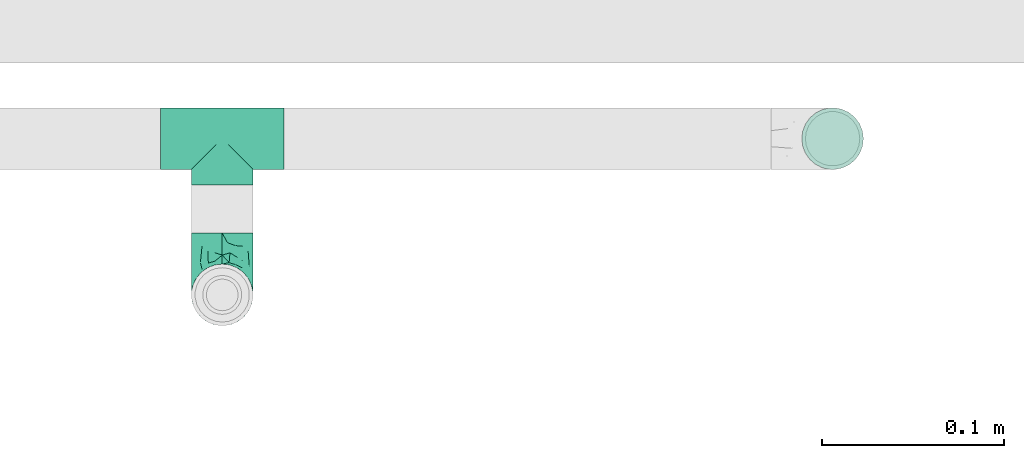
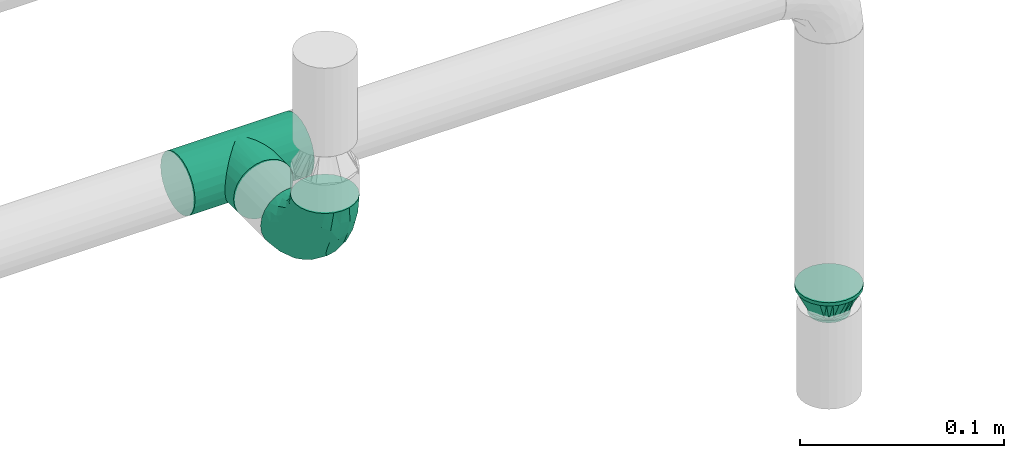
# One storey, part 61 of 95: 3 flow fittings.
"""IFC2X3 building model written with IfcOpenShell, lengths in millimetres."""

import ifcopenshell
import ifcopenshell.guid

model = None  # the IFC model being written
_history = None  # IfcOwnerHistory: only IFC2X3 demands one
_inside = {}  # id of a spatial element -> (the spatial element, [elements in it])
_under = {}  # id of a project, library or spatial element -> (it, [spatial elements below it])
_declared = {}  # id of a project -> (the project, [libraries it declares])
_typed = {}  # id of a type object -> (the type object, [elements of that type])
_made_of = {}  # id of a material, layer set ... -> (it, [elements and type objects made of it])


def new_model(schema):
    """Start an empty IFC model of exactly this schema.

    Asked for "IFC4X3", IfcOpenShell would pick the latest addendum, in which some entities
    have other attributes; the version numbers below select the first issue.
    IFC2X3 requires an IfcOwnerHistory on every rooted entity: one is made here for all.
    """
    global model, _history
    if schema == "IFC4X3":
        model = ifcopenshell.file(schema_version=(4, 3, 0, 0))
    else:
        model = ifcopenshell.file(schema=schema)
    _inside.clear()
    _under.clear()
    _declared.clear()
    _typed.clear()
    _made_of.clear()
    _history = None
    if model.schema == "IFC2X3":
        org = make("IfcOrganization", Name="unknown")
        user = make(
            "IfcPersonAndOrganization",
            ThePerson=make("IfcPerson", FamilyName="unknown"),
            TheOrganization=org,
        )
        app = make(
            "IfcApplication",
            ApplicationDeveloper=org,
            Version="unknown",
            ApplicationFullName="unknown",
            ApplicationIdentifier="unknown",
        )
        _history = make(
            "IfcOwnerHistory",
            OwningUser=user,
            OwningApplication=app,
            ChangeAction="ADDED",
            CreationDate=0,
        )
    return model


def make(cls, **values):
    """One entity of the class cls with the attributes given. An attribute that is None is left unset."""
    return model.create_entity(
        cls, **{name: value for name, value in values.items() if value is not None}
    )


def entity(cls, *values):
    """Any entity or typed value of the class cls, its attributes in the order of the schema. None: left unset."""
    e = model.create_entity(cls)
    for i, value in enumerate(values):
        if value is not None:
            e[i] = value
    return e


def rooted(cls, **values):
    """An entity with a GlobalId (a new one), such as an element, a storey or a relation."""
    return make(cls, GlobalId=ifcopenshell.guid.new(), OwnerHistory=_history, **values)


def si_unit(unit_type, name, prefix=None):
    """IfcSIUnit, for example si_unit("LENGTHUNIT", "METRE", prefix="MILLI")."""
    return make("IfcSIUnit", UnitType=unit_type, Prefix=prefix, Name=name)


def converted_unit(unit_type, name, factor, base, dimensions=None, offset=None):
    """IfcConversionBasedUnit, such as the inch: factor (a typed value) times the base unit."""
    return make(
        "IfcConversionBasedUnit"
        if offset is None
        else "IfcConversionBasedUnitWithOffset",
        ConversionOffset=offset,
        Dimensions=None
        if dimensions is None
        else entity("IfcDimensionalExponents", *dimensions),
        UnitType=unit_type,
        Name=name,
        ConversionFactor=make(
            "IfcMeasureWithUnit", ValueComponent=factor, UnitComponent=base
        ),
    )


def derived_unit(unit_type, elements):
    """IfcDerivedUnit: a product of units, each with its exponent."""
    return make(
        "IfcDerivedUnit",
        Elements=[
            make("IfcDerivedUnitElement", Unit=unit, Exponent=power)
            for unit, power in elements
        ],
        UnitType=unit_type,
    )


def assignment(units):
    """IfcUnitAssignment: the units of a project."""
    return None if units is None else make("IfcUnitAssignment", Units=units)


def point(xyz):
    """IfcCartesianPoint."""
    return None if xyz is None else make("IfcCartesianPoint", Coordinates=xyz)


def direction(xyz):
    """IfcDirection."""
    return None if xyz is None else make("IfcDirection", DirectionRatios=xyz)


def frame(location, z_axis=None, x_axis=None):
    """IfcAxis2Placement3D, a coordinate frame: its origin and axes. An axis left out is left unset."""
    return make(
        "IfcAxis2Placement3D",
        Location=point(location),
        Axis=direction(z_axis),
        RefDirection=direction(x_axis),
    )


def origin_with_axes():
    """The frame at (0, 0, 0) with the z axis (0, 0, 1) and the x axis (1, 0, 0) written out."""
    return frame((0.0, 0.0, 0.0), z_axis=(0.0, 0.0, 1.0), x_axis=(1.0, 0.0, 0.0))


def place(relative_to, where):
    """IfcLocalPlacement: puts the frame where relative to a parent placement (None: the world)."""
    return make(
        "IfcLocalPlacement", PlacementRelTo=relative_to, RelativePlacement=where
    )


def context(
    kind, dimensions, precision=None, world=None, true_north=None, identifier=None
):
    """IfcGeometricRepresentationContext, for example the 3D "Model" context."""
    return make(
        "IfcGeometricRepresentationContext",
        ContextIdentifier=identifier,
        ContextType=kind,
        CoordinateSpaceDimension=dimensions,
        Precision=precision,
        WorldCoordinateSystem=world,
        TrueNorth=true_north,
    )


def subcontext(parent, identifier, kind, view, scale=None):
    """IfcGeometricRepresentationSubContext, for example "Body" below "Model"."""
    return make(
        "IfcGeometricRepresentationSubContext",
        ContextIdentifier=identifier,
        ContextType=kind,
        ParentContext=parent,
        TargetScale=scale,
        TargetView=view,
    )


def project(units=None, contexts=None):
    """IfcProject with its units and contexts."""
    return rooted(
        "IfcProject",
        Name="project",
        RepresentationContexts=contexts,
        UnitsInContext=assignment(units),
    )


def spatial(cls, under=None, at=None, **own):
    """A site, building, storey or space (cls), placed at a placement, below another one or the project."""
    s = rooted(cls, ObjectPlacement=at, **own)
    if under is not None:
        _under.setdefault(under.id(), (under, []))[1].append(s)
    return s


def faces_of(points, faces, orient=None, outer=None):
    """IfcFace entities. A face is a list of loops; a loop is a list of indices into points, from 0.

    orient and outer hold one flag for each loop. By default every Orientation is true, the
    first loop of a face is its IfcFaceOuterBound and the others are IfcFaceBound.
    """
    made = []
    for i, loops in enumerate(faces):
        bounds = []
        for j, loop in enumerate(loops):
            is_outer = j == 0 if outer is None else outer[i][j]
            bounds.append(
                make(
                    "IfcFaceOuterBound" if is_outer else "IfcFaceBound",
                    Bound=make("IfcPolyLoop", Polygon=[points[k] for k in loop]),
                    Orientation=True if orient is None else orient[i][j],
                )
            )
        made.append(make("IfcFace", Bounds=bounds))
    return made


def open_shell(faces, orient=None, outer=None):
    """The faces of one IfcOpenShell. surface_model builds it on its shared points."""
    return ("IfcOpenShell", faces, orient, outer)


def surface_model(cls, points, shells):
    """IfcFaceBasedSurfaceModel or IfcShellBasedSurfaceModel (cls): surfaces that need not close."""
    shared = [point(p) for p in points]
    made = [make(c, CfsFaces=faces_of(shared, fs, o, b)) for c, fs, o, b in shells]
    if cls == "IfcFaceBasedSurfaceModel":
        return make(cls, FbsmFaces=made)
    return make(cls, SbsmBoundary=made)


def shape(context_of_items, identifier, shape_type, items):
    """IfcShapeRepresentation: the items that make up one representation, for example the "Body"."""
    return make(
        "IfcShapeRepresentation",
        ContextOfItems=context_of_items,
        RepresentationIdentifier=identifier,
        RepresentationType=shape_type,
        Items=items,
    )


def source(mapping_origin, context_of_items, identifier, shape_type, items):
    """IfcRepresentationMap: a shape defined once, which mapped items show again and again."""
    return make(
        "IfcRepresentationMap",
        MappingOrigin=mapping_origin,
        MappedRepresentation=shape(context_of_items, identifier, shape_type, items),
    )


def transform(
    local_origin,
    x_axis=None,
    y_axis=None,
    z_axis=None,
    scale=None,
    scale2=None,
    scale3=None,
    uniform=True,
):
    """IfcCartesianTransformationOperator3D, or its non-uniform kind. x_axis, y_axis, z_axis: its Axis1, 2, 3."""
    if uniform:
        return make(
            "IfcCartesianTransformationOperator3D",
            Axis1=direction(x_axis),
            Axis2=direction(y_axis),
            LocalOrigin=point(local_origin),
            Scale=scale,
            Axis3=direction(z_axis),
        )
    return make(
        "IfcCartesianTransformationOperator3DnonUniform",
        Axis1=direction(x_axis),
        Axis2=direction(y_axis),
        LocalOrigin=point(local_origin),
        Scale=scale,
        Axis3=direction(z_axis),
        Scale2=scale2,
        Scale3=scale3,
    )


def mapped(mapping_source, mapping_target):
    """IfcMappedItem: shows the shape of a source again, moved by a transform."""
    return make(
        "IfcMappedItem", MappingSource=mapping_source, MappingTarget=mapping_target
    )


def made_of(thing, what):
    """Note that an element or type object is made of a material, layer set ...; save() writes the relation."""
    if what is not None:
        _made_of.setdefault(what.id(), (what, []))[1].append(thing)
    return thing


def type_object(cls, material=None, **own):
    """A type object (cls), such as IfcWallType, which elements share."""
    return made_of(rooted(cls, **own), material)


def element(
    cls,
    number,
    at=None,
    inside=None,
    cuts=None,
    type_object=None,
    material=None,
    context=None,
    identifier="Body",
    shape_type=None,
    held_by="IfcProductDefinitionShape",
    body=None,
    shapes=None,
    **own,
):
    """One element of the class cls, such as IfcWall. Its Tag is "e" and its number.

    at: its placement. inside: the storey or other place that contains it. cuts: it is an
    opening in that element (IfcRelVoidsElement). A single representation is given by context,
    identifier, shape_type and body (its items); several are given by shapes. held_by: the class
    of the entity that holds the representations. save() writes the other relations.
    """
    e = rooted(cls, Tag="e%d" % number, ObjectPlacement=at, **own)
    if body is not None:
        shapes = [shape(context, identifier, shape_type, body)]
    if shapes is not None:
        e.Representation = make(held_by, Representations=shapes)
    if inside is not None:
        _inside.setdefault(inside.id(), (inside, []))[1].append(e)
    if cuts is not None:
        rooted(
            "IfcRelVoidsElement", RelatingBuildingElement=cuts, RelatedOpeningElement=e
        )
    if type_object is not None:
        _typed.setdefault(type_object.id(), (type_object, []))[1].append(e)
    return made_of(e, material)


def aggregate(whole, parts):
    """IfcRelAggregates: a whole, such as a stair, and the parts it consists of."""
    return rooted("IfcRelAggregates", RelatingObject=whole, RelatedObjects=parts)


def save(model, path):
    """Write the relations noted so far, then the file.

    IfcRelAggregates (storeys below a building ...), IfcRelContainedInSpatialStructure (elements
    in a storey), IfcRelDefinesByType, IfcRelAssociatesMaterial and IfcRelDeclares: one each for
    every whole, place, type object, material and project.
    """
    for whole, parts in _under.values():
        aggregate(whole, parts)
    for where, things in _inside.values():
        rooted(
            "IfcRelContainedInSpatialStructure",
            RelatedElements=things,
            RelatingStructure=where,
        )
    for kind, things in _typed.values():
        rooted("IfcRelDefinesByType", RelatedObjects=things, RelatingType=kind)
    for what, things in _made_of.values():
        rooted("IfcRelAssociatesMaterial", RelatedObjects=things, RelatingMaterial=what)
    for by, libraries in _declared.values():
        rooted("IfcRelDeclares", RelatingContext=by, RelatedDefinitions=libraries)
    model.write(path)


model = new_model("IFC2X3")

# Units and contexts
model_context = context("Model", 3, precision=0.01, world=frame((0.0, 4.29681676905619e-09, 0.0)), true_north=direction((4.01073788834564e-13, 1.0)))
plan_context = context("Plan", 3, precision=0.01, world=frame((0.0, 4.29681676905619e-09, 0.0)), true_north=direction((4.01073788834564e-13, 1.0)))
body_context = subcontext(model_context, "Body", "Model", "MODEL_VIEW")
ifc_project = project(units=[converted_unit("PLANEANGLEUNIT", "DEGREE", entity("IfcPositiveLengthMeasure", 0.0174532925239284), si_unit("PLANEANGLEUNIT", "RADIAN"), dimensions=[0, 0, 0, 0, 0, 0, 0]), si_unit("AREAUNIT", "SQUARE_METRE"), si_unit("LENGTHUNIT", "METRE", prefix="MILLI"), si_unit("MASSUNIT", "GRAM", prefix="KILO"), si_unit("POWERUNIT", "WATT"), si_unit("PRESSUREUNIT", "PASCAL"), si_unit("FORCEUNIT", "NEWTON", prefix="KILO"), si_unit("ELECTRICVOLTAGEUNIT", "VOLT"), si_unit("ELECTRICCURRENTUNIT", "AMPERE"), si_unit("THERMODYNAMICTEMPERATUREUNIT", "DEGREE_CELSIUS"), si_unit("TIMEUNIT", "SECOND"), si_unit("VOLUMEUNIT", "CUBIC_METRE"), derived_unit("LINEARVELOCITYUNIT", [(si_unit("LENGTHUNIT", "METRE"), 1), (si_unit("TIMEUNIT", "SECOND"), -1)]), derived_unit("VOLUMETRICFLOWRATEUNIT", [(si_unit("VOLUMEUNIT", "CUBIC_METRE"), 1), (si_unit("TIMEUNIT", "SECOND"), -1)]), derived_unit("THERMALTRANSMITTANCEUNIT", [(si_unit("POWERUNIT", "WATT"), 1), (si_unit("THERMODYNAMICTEMPERATUREUNIT", "KELVIN"), -1), (si_unit("AREAUNIT", "SQUARE_METRE"), -1)]), derived_unit("SOUNDPRESSUREUNIT", [(si_unit("PRESSUREUNIT", "PASCAL"), 1)])], contexts=[model_context, plan_context])

# Site, building, storey
site_placement = place(None, frame((0.0, -4.29681676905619e-09, 0.0), z_axis=(0.0, 0.0, 1.0), x_axis=(1.0, 0.0, 0.0)))
site = spatial("IfcSite", under=ifc_project, at=site_placement, CompositionType="ELEMENT")
building_placement = place(site_placement, frame((0.0, 4.29681676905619e-09, 0.0), z_axis=(0.0, 0.0, 1.0), x_axis=(1.0, 0.0, 0.0)))
building = spatial("IfcBuilding", under=site, at=building_placement, Name="mc-building", CompositionType="ELEMENT")
storey_placement = place(building_placement, frame((0.0, 0.0, 210900.0), z_axis=(0.0, 0.0, 1.0), x_axis=(1.0, 0.0, 0.0)))
storey = spatial("IfcBuildingStorey", under=building, at=storey_placement, Name="Nivå F", CompositionType="ELEMENT", Elevation=210900.0)

# Flow fittings
pipe_fitting_type_1 = type_object("IfcPipeFittingType", Name="magi_pipe_fe_reducer_centric_short_NOR", PredefinedType="TRANSITION")
shared_shape_1 = source(origin_with_axes(), body_context, "Body", "SurfaceModel", [
    surface_model("IfcShellBasedSurfaceModel", [(-2.0, -7.56604, -7.56604), (-2.0, -10.33541, -2.76936), (-2.0, -5.35, -9.26647), (-2.0, 5.35, -9.26647), (-2.0, 10.33541, -2.76936), (-2.0, 7.56604, -7.56604), (12.4, 11.9501, 11.9501), (12.4, 0.0, 16.9), (12.4, 11.9501, -11.9501), (12.4, 16.9, 0.0), (0.0, -10.7, 0.0), (0.0, -5.35, 9.26647), (0.0, -5.35, -9.26647), (0.0, 10.7, 0.0), (12.4, 15.66253, -2.98753), (12.4, 8.96258, -13.18758), (0.0, 6.6875, -6.94985), (12.4, -15.66253, -2.98753), (12.4, -16.9, 0.0), (12.4, 5.97505, -14.42505), (0.0, 5.35, -9.26647), (12.4, 14.42505, -5.97505), (0.0, 8.025, -4.63324), (0.0, 9.3625, -2.31662), (0.0, -9.3625, -2.31662), (0.0, -8.025, -4.63324), (12.4, -14.42505, -5.97505), (12.4, 13.18758, -8.96258), (12.4, -13.18758, -8.96258), (12.4, -11.9501, -11.9501), (0.0, -6.6875, -6.94985), (12.4, -8.96258, -13.18758), (12.4, -5.97505, -14.42505), (12.4, -15.66253, 2.98753), (12.4, -8.96258, 13.18758), (0.0, -6.6875, 6.94985), (12.4, -11.9501, 11.9501), (12.4, 15.66253, 2.98753), (12.4, -5.97505, 14.42505), (12.4, -14.42505, 5.97505), (0.0, -8.025, 4.63324), (0.0, -9.3625, 2.31662), (0.0, 9.3625, 2.31662), (0.0, 8.025, 4.63324), (12.4, 14.42505, 5.97505), (12.4, -13.18758, 8.96258), (12.4, 13.18758, 8.96258), (0.0, 6.6875, 6.94985), (12.4, 8.96258, 13.18758), (0.0, 5.35, 9.26647), (12.4, 5.97505, 14.42505), (14.4, 4.37404, -16.32415), (14.4, 8.45, -14.63583), (14.4, 11.9501, -11.9501), (14.4, -8.45, -14.63583), (14.4, 16.32415, -4.37404), (14.4, 16.32415, 4.37404), (14.4, 14.63583, -8.45), (14.4, 0.0, -16.9), (14.4, -4.37404, -16.32415), (14.4, -11.9501, -11.9501), (14.4, -16.32415, -4.37404), (14.4, -14.63583, -8.45), (14.4, -16.32415, 4.37404), (14.4, 16.9, 0.0), (14.4, 14.63583, 8.45), (14.4, 11.9501, 11.9501), (14.4, 4.37404, 16.32415), (14.4, 8.45, 14.63583), (14.4, 0.0, 16.9), (14.4, -14.63583, 8.45), (14.4, -16.9, 0.0), (14.4, -8.45, 14.63583), (14.4, -11.9501, 11.9501), (14.4, -4.37404, 16.32415), (12.4, 4.37404, 16.32415), (12.4, -14.63583, 8.45), (12.4, 16.32415, 4.37404), (12.4, 8.45, 14.63583), (12.4, 14.63583, 8.45), (12.4, -8.45, 14.63583), (12.4, -4.37404, 16.32415), (12.4, -16.32415, 4.37404), (12.4, -16.32415, -4.37404), (12.4, -8.45, -14.63583), (12.4, 16.32415, -4.37404), (12.4, 14.63583, -8.45), (12.4, 8.45, -14.63583), (12.4, 4.37404, -16.32415), (12.4, 0.0, -16.9), (12.4, -14.63583, -8.45), (12.4, -4.37404, -16.32415), (-2.0, 2.76936, 10.33541), (-2.0, 0.0, 10.7), (-2.0, 5.35, 9.26647), (-2.0, 7.56604, 7.56604), (-2.0, 9.26647, 5.35), (-2.0, 10.33541, 2.76936), (-2.0, -10.33541, 2.76936), (-2.0, -2.76936, 10.33541), (-2.0, -7.56604, 7.56604), (-2.0, -5.35, 9.26647), (-2.0, -9.26647, 5.35), (-2.0, -10.7, 0.0), (-2.0, 9.26647, -5.35), (-2.0, 2.76936, -10.33541), (-2.0, -9.26647, -5.35), (-2.0, 0.0, -10.7), (-2.0, -2.76936, -10.33541), (-2.0, 10.7, 0.0), (0.0, 0.0, -10.7), (0.0, 2.76936, -10.33541), (0.0, 10.33541, -2.76936), (0.0, 7.56604, -7.56604), (0.0, -10.33541, -2.76936), (0.0, 9.26647, -5.35), (0.0, 0.0, 10.7), (0.0, -2.76936, -10.33541), (0.0, -7.56604, -7.56604), (0.0, -9.26647, -5.35), (0.0, 10.33541, 2.76936), (0.0, 9.26647, 5.35), (0.0, 7.56604, 7.56604), (0.0, 2.76936, 10.33541), (0.0, -7.56604, 7.56604), (0.0, -10.33541, 2.76936), (0.0, -9.26647, 5.35), (0.0, -2.76936, 10.33541), (0.0, 2.675, -9.26647), (0.0, -2.675, -9.26647), (12.4, 2.98753, -15.66253), (0.0, 0.0, -9.26647), (12.4, -2.98753, -15.66253), (0.0, -2.675, 9.26647), (0.0, 2.675, 9.26647), (12.4, -2.98753, 15.66253), (0.0, 0.0, 9.26647), (12.4, 2.98753, 15.66253)], [open_shell([[[0, 1, 2]], [[3, 4, 5]], [[6, 7, 8]], [[8, 9, 6]], [[10, 11, 12]], [[13, 9, 14]], [[15, 16, 8]], [[17, 18, 10]], [[15, 19, 20]], [[21, 22, 23]], [[24, 25, 26]], [[22, 21, 27]], [[28, 26, 25]], [[29, 30, 31]], [[12, 32, 31]], [[10, 18, 33]], [[34, 35, 36]], [[37, 9, 13]], [[34, 38, 11]], [[39, 40, 41]], [[42, 43, 44]], [[40, 39, 45]], [[46, 44, 43]], [[6, 47, 48]], [[49, 50, 48]], [[51, 52, 53]], [[54, 51, 53]], [[53, 55, 56]], [[55, 53, 57]], [[53, 56, 54]], [[58, 54, 59]], [[58, 51, 54]], [[60, 61, 62]], [[61, 60, 54]], [[54, 63, 61]], [[56, 55, 64]], [[56, 65, 66]], [[56, 66, 67]], [[67, 63, 54]], [[67, 66, 68]], [[63, 67, 69]], [[69, 70, 63]], [[71, 61, 63]], [[70, 72, 73]], [[70, 69, 72]], [[72, 69, 74]], [[54, 56, 67]], [[75, 76, 7]], [[77, 75, 78]], [[6, 79, 77]], [[6, 77, 78]], [[76, 75, 77]], [[80, 76, 36]], [[80, 81, 7]], [[7, 76, 80]], [[82, 76, 77]], [[82, 83, 18]], [[82, 77, 84]], [[77, 85, 8]], [[8, 85, 86]], [[8, 87, 88]], [[84, 77, 8]], [[88, 89, 8]], [[83, 29, 90]], [[29, 83, 84]], [[84, 89, 91]], [[83, 82, 84]], [[8, 89, 84]], [[85, 77, 9]], [[83, 61, 18]], [[90, 62, 83]], [[54, 29, 84]], [[90, 29, 60]], [[59, 84, 91]], [[83, 62, 61]], [[61, 71, 18]], [[59, 54, 84]], [[60, 29, 54]], [[60, 62, 90]], [[58, 59, 91]], [[91, 89, 58]], [[88, 51, 89]], [[87, 52, 88]], [[57, 8, 86]], [[87, 8, 53]], [[55, 86, 85]], [[87, 53, 52]], [[52, 51, 88]], [[64, 55, 85]], [[57, 86, 55]], [[57, 53, 8]], [[9, 64, 85]], [[89, 51, 58]], [[77, 56, 9]], [[79, 65, 77]], [[68, 6, 78]], [[79, 6, 66]], [[67, 78, 75]], [[77, 65, 56]], [[56, 64, 9]], [[67, 68, 78]], [[66, 6, 68]], [[66, 65, 79]], [[69, 67, 75]], [[75, 7, 69]], [[81, 74, 7]], [[80, 72, 81]], [[70, 36, 76]], [[80, 36, 73]], [[63, 76, 82]], [[80, 73, 72]], [[72, 74, 81]], [[71, 63, 82]], [[70, 76, 63]], [[70, 73, 36]], [[18, 71, 82]], [[7, 74, 69]], [[92, 1, 93]], [[94, 1, 92]], [[95, 96, 97]], [[95, 97, 94]], [[98, 93, 1]], [[99, 100, 101]], [[99, 93, 100]], [[100, 98, 102]], [[93, 98, 100]], [[98, 1, 103]], [[94, 97, 1]], [[1, 97, 4]], [[5, 4, 104]], [[4, 3, 1]], [[105, 1, 3]], [[1, 0, 106]], [[2, 107, 108]], [[2, 1, 105]], [[105, 107, 2]], [[4, 97, 109]], [[20, 110, 111]], [[112, 20, 113]], [[114, 20, 112]], [[112, 113, 115]], [[116, 114, 112]], [[110, 12, 117]], [[110, 20, 12]], [[118, 114, 119]], [[114, 118, 12]], [[20, 114, 12]], [[112, 13, 120]], [[120, 121, 122]], [[120, 122, 123]], [[116, 112, 123]], [[123, 122, 49]], [[116, 124, 114]], [[125, 124, 126]], [[10, 114, 125]], [[124, 127, 11]], [[125, 114, 124]], [[127, 124, 116]], [[123, 112, 120]], [[1, 114, 103]], [[106, 119, 1]], [[12, 0, 2]], [[106, 0, 118]], [[117, 2, 108]], [[1, 119, 114]], [[114, 10, 103]], [[117, 12, 2]], [[118, 0, 12]], [[118, 119, 106]], [[110, 117, 108]], [[108, 107, 110]], [[105, 111, 107]], [[3, 20, 105]], [[115, 5, 104]], [[3, 5, 113]], [[112, 104, 4]], [[3, 113, 20]], [[20, 111, 105]], [[13, 112, 4]], [[115, 104, 112]], [[115, 113, 5]], [[109, 13, 4]], [[107, 111, 110]], [[97, 120, 109]], [[96, 121, 97]], [[49, 95, 94]], [[96, 95, 122]], [[123, 94, 92]], [[97, 121, 120]], [[120, 13, 109]], [[123, 49, 94]], [[122, 95, 49]], [[122, 121, 96]], [[116, 123, 92]], [[92, 93, 116]], [[99, 127, 93]], [[101, 11, 99]], [[126, 100, 102]], [[101, 100, 124]], [[125, 102, 98]], [[101, 124, 11]], [[11, 127, 99]], [[10, 125, 98]], [[126, 102, 125]], [[126, 124, 100]], [[103, 10, 98]], [[93, 127, 116]], [[18, 7, 36]], [[18, 29, 8]], [[89, 8, 29]], [[18, 8, 7]], [[13, 11, 49]], [[13, 20, 12]], [[13, 12, 11]], [[24, 26, 17]], [[10, 24, 17]], [[16, 15, 20]], [[30, 12, 31]], [[23, 14, 21]], [[19, 128, 20]], [[27, 8, 16]], [[32, 12, 129]], [[30, 28, 25]], [[130, 131, 128]], [[129, 132, 32]], [[16, 22, 27]], [[13, 14, 23]], [[128, 19, 130]], [[130, 89, 131]], [[131, 132, 129]], [[89, 132, 131]], [[28, 30, 29]], [[42, 44, 37]], [[13, 42, 37]], [[35, 34, 11]], [[47, 49, 48]], [[41, 33, 39]], [[38, 133, 11]], [[45, 36, 35]], [[50, 49, 134]], [[47, 46, 43]], [[135, 136, 133]], [[134, 137, 50]], [[35, 40, 45]], [[10, 33, 41]], [[133, 38, 135]], [[135, 7, 136]], [[136, 137, 134]], [[7, 137, 136]], [[46, 47, 6]]])]),
])
flow_fitting_1_placement = place(storey_placement, frame((522200.0, 451420.05824, 2396.95199999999), z_axis=(0.0, 1.0, 0.0), x_axis=(0.0, 0.0, 1.0)))
element("IfcFlowFitting", 1, at=flow_fitting_1_placement, inside=storey, type_object=pipe_fitting_type_1, Name="magi_pipe_fe_reducer_centric_short_NOR", context=body_context, shape_type="MappedRepresentation", body=[
    mapped(shared_shape_1, transform((0.0, 0.0, 0.0), scale=1.0)),
])
pipe_fitting_type_2 = type_object("IfcPipeFittingType", Name="magi_pipe_fe_elbow_short_001", PredefinedType="BEND")
shared_shape_2 = source(origin_with_axes(), body_context, "Body", "SurfaceModel", [
    surface_model("IfcShellBasedSurfaceModel", [(-33.8, 8.45, -14.63583), (-33.8, 4.37404, -16.32415), (-33.8, 11.9501, -11.9501), (-33.8, -11.9501, -11.9501), (-33.8, -14.63583, -8.45), (-33.8, -8.45, -14.63583), (-33.8, 0.0, -16.9), (-33.8, -4.37404, -16.32415), (-33.8, -4.37404, 16.32415), (-33.8, 0.0, 16.9), (-33.8, -8.45, 14.63583), (-33.8, 16.32415, -4.37404), (-33.8, 14.63583, -8.45), (-33.8, -16.32415, -4.37404), (-33.8, -16.9, 0.0), (-33.8, -16.32415, 4.37404), (-33.8, 11.9501, 11.9501), (-33.8, 14.63583, 8.45), (-33.8, 16.32415, 4.37404), (-33.8, 4.37404, 16.32415), (-33.8, 8.45, 14.63583), (-33.8, -14.63583, 8.45), (-33.8, -11.9501, 11.9501), (-33.8, 16.9, 0.0), (-11.9501, 33.8, -11.9501), (0.0, 33.8, -16.9), (-4.37404, 33.8, -16.32415), (-8.45, 33.8, -14.63583), (-14.63583, 33.8, -8.45), (-16.32415, 33.8, -4.37404), (14.63583, 33.8, -8.45), (8.45, 33.8, 14.63583), (16.32415, 33.8, -4.37404), (8.45, 33.8, -14.63583), (11.9501, 33.8, -11.9501), (4.37404, 33.8, -16.32415), (16.32415, 33.8, 4.37404), (16.9, 33.8, 0.0), (-11.9501, 33.8, 11.9501), (-16.32415, 33.8, 4.37404), (-14.63583, 33.8, 8.45), (-8.45, 33.8, 14.63583), (-4.37404, 33.8, 16.32415), (11.9501, 33.8, 11.9501), (14.63583, 33.8, 8.45), (0.0, 33.8, 16.9), (4.37404, 33.8, 16.32415), (-16.9, 33.8, 0.0), (-24.79389, -13.12945, 9.48721), (-22.19287, -9.75018, 12.59315), (-24.09897, -14.97035, 0.0), (-14.93934, -10.76256, 8.5297), (-22.46095, -14.75051, 5.27077), (14.75051, 22.46094, 5.27077), (11.9251, 13.23888, 4.33236), (13.04069, 14.39795, 0.0), (7.71387, 13.68847, 11.55891), (9.75018, 22.19287, 12.59315), (4.10169, 13.0571, 14.04018), (-24.84007, -6.39063, 15.2048), (-25.81779, -2.23879, 16.61097), (-23.66549, 2.59054, 16.87119), (-26.50418, 14.06512, 11.08152), (-24.21253, 17.66365, 7.72657), (-29.58514, 15.86957, 7.00283), (-6.17382, -7.5455, 0.0), (-13.23888, -11.9251, 4.33236), (-14.39795, -13.04069, 0.0), (-17.81434, 18.87373, 11.97104), (-6.30846, 29.15138, 15.82987), (-2.31622, 25.28002, 16.85849), (-29.23923, 10.23435, 13.77053), (-1.45439, -2.85688, 7.61475), (-0.28326, 0.34872, 10.09509), (-5.74484, -4.04709, 10.4122), (-4.41137, 11.31918, 16.59407), (-8.39727, 3.10034, 15.7812), (-1.72649, 9.1306, 15.53089), (-17.39909, 24.75344, 7.64977), (-26.19233, 20.0512, 0.0), (-28.14518, 17.29657, 4.25857), (-26.05147, 6.6281, 15.96447), (-5.87354, 16.61944, 16.86968), (-12.51807, 12.51807, 16.48937), (-10.06312, 7.38516, 16.81295), (-3.01882, 3.01882, 13.81718), (-13.0571, -4.10169, 14.04018), (-16.82553, -0.15166, 16.38038), (10.76256, 14.93934, 8.5297), (13.12945, 24.79389, 9.48721), (6.39063, 24.84007, 15.2048), (2.23879, 25.81779, 16.61097), (-13.68847, -7.71387, 11.55891), (14.97035, 24.09897, 0.0), (-7.30894, 22.89991, 16.09489), (-10.67958, 26.17414, 14.008), (-12.78295, 18.26924, 15.06066), (-13.88562, 22.45231, 12.93244), (-18.04944, 15.16501, 14.04434), (-23.11658, 20.08178, 4.02986), (-21.84989, 21.84989, 0.0), (-18.55817, 25.48277, 3.93065), (-13.95142, 26.94732, 11.03289), (-18.57098, 7.23906, 16.59756), (-16.58335, 4.14122, 16.89279), (-17.96666, 11.46709, 15.63151), (-9.84453, 17.54304, 16.18938), (0.15166, 16.82553, 16.38038), (-23.27207, 11.47201, 14.23154), (3.84842, 5.86994, 10.70473), (-8.0212, -7.54413, 7.93275), (1.00345, -2.19508, 4.57414), (5.13203, 3.01004, 5.90201), (5.24161, 1.7543, 2.53265), (8.70457, 7.04947, 3.99182), (-20.0512, 26.19233, 0.0), (8.4852, 8.76699, 7.09296), (-4.55488, -6.72064, 4.90681), (2.05031, -2.05031, 0.0), (7.5455, 6.17382, 0.0), (-26.75399, 2.1369, -16.845), (-14.61995, 24.73803, -11.27736), (-28.45274, -13.45335, -9.81895), (-26.00469, 6.63555, -15.96645), (-23.06726, 20.04573, -4.26202), (-13.80647, -4.26506, -14.17873), (-14.67501, -0.21081, -16.07388), (-6.7902, -0.2828, -13.8478), (-24.53586, 11.08096, -14.13417), (-26.72048, 14.00837, -11.05776), (10.0967, 24.44989, -12.75976), (5.83237, 21.40218, -15.03047), (6.66249, 28.54238, -15.38093), (-20.38182, 15.48705, -12.74596), (12.53268, 21.23441, -9.15363), (12.54494, 15.67504, -5.54878), (9.7522, 12.89279, -8.66343), (-15.65186, 19.64213, -13.01327), (-12.03528, 20.66498, -14.67665), (-15.61907, 15.61906, -14.83879), (-25.56551, -15.26206, 0.0), (-24.65452, -15.12934, -5.50955), (13.45335, 28.45274, -9.81895), (15.12934, 24.65452, -5.50955), (-7.35442, -8.31014, -5.65563), (-15.67504, -12.54494, -5.54878), (-24.44989, -10.0967, -12.75976), (0.16522, 0.41303, -9.71728), (-5.70658, -5.33066, -8.89288), (-5.13869, -2.37198, -11.53565), (-21.23441, -12.53268, -9.15363), (0.71146, 7.93863, -14.09382), (0.21081, 14.67501, -16.07388), (3.49291, 14.42772, -14.76381), (-24.89911, -2.13088, -16.591), (-28.54238, -6.66249, -15.38093), (-18.44386, -7.71663, -13.26957), (2.13088, 24.89911, -16.591), (-28.64342, 17.44413, -2.89318), (1.70017, -1.28722, -5.09504), (-16.57067, 26.81947, -7.36596), (-17.69055, 27.4263, -3.76405), (-12.89279, -9.7522, -8.66343), (-5.96611, 5.96611, -15.95814), (-20.53709, 20.09345, -8.28985), (-2.1369, 26.75399, -16.845), (-6.89872, 24.58781, -16.02578), (-10.60739, 26.53157, -13.98044), (-21.40218, -5.83237, -15.03047), (2.93192, 5.89627, -11.55917), (6.89393, 12.61842, -11.82233), (5.58056, 5.95325, -8.79455), (-3.99512, 18.61798, -16.89635), (8.31014, 7.35442, -5.65563), (-9.1383, 9.86148, -16.89041), (-9.99983, 16.02119, -16.39699), (-16.68576, 9.78031, -16.34199), (-27.01915, 16.61158, -7.12979), (15.26206, 25.56551, 0.0), (-18.61798, 3.99512, -16.89635), (-19.37495, 27.82495, 0.0), (-12.61842, -6.89393, -11.82233), (-18.84705, 19.14018, -10.96545)], [open_shell([[[0, 1, 2]], [[3, 4, 5]], [[6, 7, 5]], [[8, 9, 10]], [[1, 6, 2]], [[11, 12, 2]], [[4, 2, 6]], [[2, 13, 10]], [[5, 4, 6]], [[2, 4, 13]], [[14, 15, 13]], [[11, 2, 16]], [[11, 17, 18]], [[11, 16, 17]], [[19, 20, 16]], [[16, 2, 10]], [[19, 16, 10]], [[21, 22, 15]], [[22, 13, 15]], [[22, 10, 13]], [[10, 9, 19]], [[11, 18, 23]], [[24, 25, 26]], [[24, 26, 27]], [[24, 28, 29]], [[25, 24, 30]], [[31, 32, 24]], [[33, 30, 34]], [[33, 35, 25]], [[25, 30, 33]], [[32, 30, 24]], [[32, 36, 37]], [[38, 24, 29]], [[39, 40, 29]], [[40, 38, 29]], [[38, 41, 42]], [[38, 31, 24]], [[31, 38, 42]], [[36, 43, 44]], [[36, 32, 43]], [[31, 45, 46]], [[32, 31, 43]], [[42, 45, 31]], [[39, 29, 47]], [[22, 48, 49]], [[15, 14, 50]], [[51, 48, 52]], [[53, 54, 55]], [[48, 22, 21]], [[15, 52, 21]], [[56, 57, 58]], [[49, 10, 22]], [[49, 59, 10]], [[9, 60, 61]], [[62, 63, 64]], [[65, 66, 67]], [[57, 43, 31]], [[62, 68, 63]], [[42, 69, 70]], [[20, 71, 16]], [[8, 60, 9]], [[72, 73, 74]], [[75, 76, 77]], [[16, 62, 17]], [[40, 39, 78]], [[79, 23, 80]], [[64, 18, 17]], [[9, 61, 19]], [[19, 81, 20]], [[82, 83, 84]], [[74, 85, 86]], [[59, 86, 87]], [[88, 89, 57]], [[90, 31, 46]], [[44, 53, 36]], [[46, 45, 91]], [[54, 53, 88]], [[44, 89, 53]], [[92, 86, 49]], [[89, 44, 43]], [[10, 59, 8]], [[53, 55, 93]], [[93, 36, 53]], [[66, 52, 67]], [[94, 82, 70]], [[95, 96, 94]], [[97, 98, 96]], [[79, 99, 100]], [[41, 38, 95]], [[101, 100, 99]], [[68, 78, 63]], [[42, 41, 69]], [[23, 18, 80]], [[95, 94, 69]], [[78, 101, 99]], [[38, 102, 95]], [[70, 45, 42]], [[97, 95, 102]], [[15, 50, 52]], [[90, 57, 31]], [[57, 90, 58]], [[81, 19, 61]], [[103, 104, 84]], [[105, 81, 103]], [[38, 40, 102]], [[106, 96, 83]], [[94, 106, 82]], [[91, 70, 107]], [[71, 62, 16]], [[62, 108, 98]], [[86, 59, 49]], [[67, 52, 50]], [[60, 59, 87]], [[92, 49, 51]], [[86, 85, 76]], [[91, 90, 46]], [[37, 36, 93]], [[107, 77, 58]], [[107, 58, 90]], [[58, 85, 109]], [[110, 74, 92]], [[72, 74, 110]], [[66, 51, 52]], [[72, 111, 112]], [[113, 114, 112]], [[56, 88, 57]], [[52, 48, 21]], [[49, 48, 51]], [[57, 89, 43]], [[53, 89, 88]], [[103, 81, 61]], [[71, 81, 108]], [[18, 64, 80]], [[63, 78, 99]], [[47, 115, 101]], [[101, 115, 100]], [[40, 78, 102]], [[68, 102, 78]], [[97, 96, 95]], [[105, 98, 108]], [[103, 84, 83]], [[107, 70, 82]], [[76, 84, 87]], [[82, 84, 75]], [[70, 91, 45]], [[90, 91, 107]], [[59, 60, 8]], [[61, 60, 87]], [[73, 85, 74]], [[109, 112, 116]], [[103, 61, 104]], [[105, 103, 83]], [[96, 105, 83]], [[81, 105, 108]], [[96, 98, 105]], [[62, 98, 68]], [[61, 87, 104]], [[87, 84, 104]], [[86, 76, 87]], [[77, 76, 85]], [[58, 77, 85]], [[75, 77, 107]], [[82, 75, 107]], [[76, 75, 84]], [[81, 71, 20]], [[62, 71, 108]], [[95, 69, 41]], [[70, 69, 94]], [[62, 64, 17]], [[80, 63, 99]], [[63, 80, 64]], [[80, 99, 79]], [[66, 65, 117]], [[110, 66, 117]], [[112, 114, 116]], [[118, 117, 65]], [[110, 92, 51]], [[112, 111, 113]], [[119, 55, 54]], [[74, 86, 92]], [[58, 109, 56]], [[116, 56, 109]], [[66, 110, 51]], [[72, 110, 117]], [[111, 72, 117]], [[73, 112, 109]], [[117, 118, 111]], [[113, 111, 118]], [[118, 119, 113]], [[114, 119, 54]], [[119, 114, 113]], [[116, 54, 88]], [[54, 116, 114]], [[116, 88, 56]], [[112, 73, 72]], [[85, 73, 109]], [[78, 39, 101]], [[47, 101, 39]], [[102, 68, 97]], [[97, 68, 98]], [[82, 106, 83]], [[94, 96, 106]], [[1, 120, 6]], [[28, 24, 121]], [[3, 122, 4]], [[0, 123, 1]], [[100, 124, 79]], [[125, 126, 127]], [[128, 2, 129]], [[130, 131, 132]], [[128, 129, 133]], [[134, 135, 136]], [[137, 138, 139]], [[128, 0, 2]], [[67, 140, 141]], [[134, 142, 143]], [[141, 13, 4]], [[144, 65, 145]], [[146, 3, 5]], [[147, 148, 149]], [[145, 141, 150]], [[151, 152, 153]], [[154, 7, 6]], [[5, 155, 146]], [[150, 146, 156]], [[155, 5, 7]], [[143, 135, 134]], [[35, 157, 25]], [[23, 79, 158]], [[148, 159, 144]], [[160, 161, 29]], [[145, 162, 144]], [[163, 152, 151]], [[29, 28, 160]], [[121, 164, 160]], [[33, 34, 130]], [[25, 165, 26]], [[26, 165, 166]], [[142, 34, 30]], [[24, 27, 167]], [[124, 161, 164]], [[157, 35, 132]], [[155, 154, 168]], [[123, 0, 128]], [[169, 170, 171]], [[172, 157, 152]], [[26, 166, 27]], [[132, 35, 33]], [[142, 130, 34]], [[168, 154, 126]], [[136, 135, 173]], [[133, 137, 139]], [[2, 12, 129]], [[170, 131, 130]], [[30, 32, 143]], [[172, 174, 175]], [[176, 123, 128]], [[158, 177, 11]], [[135, 55, 119]], [[167, 27, 166]], [[175, 166, 172]], [[137, 167, 138]], [[122, 141, 4]], [[140, 14, 13]], [[32, 37, 178]], [[170, 130, 134]], [[152, 157, 131]], [[165, 157, 172]], [[153, 170, 151]], [[152, 163, 174]], [[168, 125, 156]], [[122, 146, 150]], [[120, 154, 6]], [[179, 174, 126]], [[179, 126, 154]], [[126, 163, 127]], [[162, 145, 150]], [[140, 13, 141]], [[32, 178, 143]], [[55, 143, 178]], [[177, 129, 12]], [[128, 133, 139]], [[176, 128, 139]], [[120, 123, 179]], [[121, 160, 28]], [[161, 100, 180]], [[166, 175, 138]], [[121, 24, 167]], [[161, 47, 29]], [[79, 124, 158]], [[124, 164, 177]], [[161, 124, 100]], [[136, 171, 170]], [[127, 163, 151]], [[147, 171, 159]], [[148, 144, 162]], [[127, 151, 169]], [[127, 181, 125]], [[129, 177, 164]], [[12, 11, 177]], [[159, 65, 144]], [[67, 141, 145]], [[143, 55, 135]], [[135, 119, 173]], [[123, 120, 1]], [[154, 120, 179]], [[157, 165, 25]], [[166, 165, 172]], [[172, 152, 174]], [[176, 139, 175]], [[126, 174, 163]], [[176, 174, 179]], [[174, 176, 175]], [[123, 176, 179]], [[150, 181, 162]], [[127, 149, 181]], [[181, 148, 162]], [[159, 148, 147]], [[171, 136, 173]], [[170, 134, 136]], [[159, 171, 173]], [[171, 147, 169]], [[169, 147, 149]], [[151, 170, 169]], [[164, 182, 129]], [[182, 121, 137]], [[181, 149, 148]], [[169, 149, 127]], [[182, 137, 133]], [[167, 137, 121]], [[166, 138, 167]], [[175, 139, 138]], [[129, 182, 133]], [[121, 182, 164]], [[161, 160, 164]], [[47, 161, 180]], [[177, 158, 124]], [[23, 158, 11]], [[130, 132, 33]], [[157, 132, 131]], [[143, 142, 30]], [[130, 142, 134]], [[154, 155, 7]], [[146, 155, 168]], [[146, 122, 3]], [[141, 122, 150]], [[152, 131, 153]], [[159, 119, 118]], [[67, 145, 65]], [[170, 153, 131]], [[119, 159, 173]], [[159, 118, 65]], [[156, 125, 181]], [[126, 125, 168]], [[150, 156, 181]], [[168, 156, 146]]])]),
])
flow_fitting_2_placement = place(storey_placement, frame((521865.41856, 451334.42495, 2600.0), z_axis=(-1.0, 0.0, 0.0), x_axis=(0.0, -1.0, 0.0)))
element("IfcFlowFitting", 2, at=flow_fitting_2_placement, inside=storey, type_object=pipe_fitting_type_2, Name="magi_pipe_fe_elbow_short_001", context=body_context, shape_type="MappedRepresentation", body=[
    mapped(shared_shape_2, transform((0.0, 0.0, 0.0), scale=1.0)),
])
pipe_fitting_type_3 = type_object("IfcPipeFittingType", Name="magi_pipe_fe_tee_centric_90_NOR", PredefinedType="JUNCTION")
shared_shape_3 = source(origin_with_axes(), body_context, "Body", "SurfaceModel", [
    surface_model("IfcShellBasedSurfaceModel", [(-33.8, 4.37404, -16.32415), (-33.8, 0.0, -16.9), (-33.8, 16.32415, -4.37404), (-33.8, 8.45, -14.63583), (-33.8, 11.9501, -11.9501), (-33.8, 14.63583, -8.45), (-33.8, -16.9, 0.0), (-33.8, -11.9501, -11.9501), (-33.8, -14.63583, -8.45), (-33.8, -8.45, -14.63583), (-33.8, -4.37404, -16.32415), (-33.8, -16.32415, -4.37404), (-33.8, 14.63583, 8.45), (-33.8, 16.32415, 4.37404), (-33.8, -8.45, 14.63583), (-33.8, 8.45, 14.63583), (-33.8, 11.9501, 11.9501), (-33.8, 4.37404, 16.32415), (-33.8, 0.0, 16.9), (-33.8, -11.9501, 11.9501), (-33.8, -14.63583, 8.45), (-33.8, -16.32415, 4.37404), (-33.8, -4.37404, 16.32415), (-33.8, 16.9, 0.0), (33.8, 4.37404, -16.32415), (33.8, -16.9, 0.0), (33.8, 0.0, -16.9), (33.8, 14.63583, -8.45), (33.8, 8.45, -14.63583), (33.8, 16.32415, -4.37404), (33.8, 11.9501, -11.9501), (33.8, -16.32415, 4.37404), (33.8, -8.45, -14.63583), (33.8, -4.37404, -16.32415), (33.8, -11.9501, -11.9501), (33.8, -14.63583, -8.45), (33.8, -16.32415, -4.37404), (33.8, 16.32415, 4.37404), (33.8, 8.45, 14.63583), (33.8, 14.63583, 8.45), (33.8, 11.9501, 11.9501), (33.8, -8.45, 14.63583), (33.8, 4.37404, 16.32415), (33.8, -14.63583, 8.45), (33.8, -11.9501, 11.9501), (33.8, 0.0, 16.9), (33.8, -4.37404, 16.32415), (33.8, 16.9, 0.0), (16.28698, -16.28698, 4.51047), (16.9, -16.9, 0.0), (14.62704, -14.62704, 8.4652), (9.47213, -9.47213, 13.99602), (12.26343, -12.26343, 11.62834), (-16.9, -16.9, 0.0), (-16.28698, -16.28698, 4.51047), (-14.62704, -14.62704, 8.4652), (-12.26343, -12.26343, 11.62834), (-9.47213, -9.47213, 13.99602), (-6.42894, -6.42894, 15.62942), (6.42894, -6.42894, 15.62942), (3.24522, -3.24522, 16.58549), (0.0, 0.0, 16.9), (-3.24522, -3.24522, 16.58549), (3.24522, -3.24522, -16.58549), (0.0, 0.0, -16.9), (-3.24522, -3.24522, -16.58549), (-6.42894, -6.42894, -15.62942), (6.42894, -6.42894, -15.62942), (9.47213, -9.47213, -13.99602), (12.26343, -12.26343, -11.62834), (14.62704, -14.62704, -8.4652), (16.28698, -16.28698, -4.51047), (-9.47213, -9.47213, -13.99602), (-12.26343, -12.26343, -11.62834), (-16.28698, -16.28698, -4.51047), (-14.62704, -14.62704, -8.4652), (4.37404, -25.35, -16.32415), (-16.9, -25.35, 0.0), (0.0, -25.35, -16.9), (14.63583, -25.35, -8.45), (8.45, -25.35, -14.63583), (16.32415, -25.35, -4.37404), (11.9501, -25.35, -11.9501), (-11.9501, -25.35, -11.9501), (-8.45, -25.35, -14.63583), (-4.37404, -25.35, -16.32415), (-14.63583, -25.35, -8.45), (-16.32415, -25.35, -4.37404), (16.9, -25.35, 0.0), (8.45, -25.35, 14.63583), (16.32415, -25.35, 4.37404), (14.63583, -25.35, 8.45), (-8.45, -25.35, 14.63583), (11.9501, -25.35, 11.9501), (4.37404, -25.35, 16.32415), (-16.32415, -25.35, 4.37404), (-11.9501, -25.35, 11.9501), (-14.63583, -25.35, 8.45), (0.0, -25.35, 16.9), (-4.37404, -25.35, 16.32415)], [open_shell([[[0, 1, 2]], [[3, 0, 4]], [[0, 2, 5]], [[4, 0, 5]], [[6, 2, 1]], [[7, 8, 9]], [[1, 10, 9]], [[11, 6, 8]], [[1, 9, 8]], [[1, 8, 6]], [[6, 12, 2]], [[12, 13, 2]], [[14, 12, 6]], [[12, 14, 15]], [[16, 12, 15]], [[17, 15, 18]], [[19, 14, 20]], [[21, 20, 14]], [[22, 18, 14]], [[14, 6, 21]], [[14, 18, 15]], [[23, 2, 13]], [[24, 25, 26]], [[27, 24, 28]], [[27, 29, 24]], [[27, 28, 30]], [[31, 25, 24]], [[26, 32, 33]], [[26, 34, 32]], [[35, 25, 36]], [[35, 34, 26]], [[25, 35, 26]], [[24, 29, 31]], [[29, 37, 38]], [[38, 37, 39]], [[38, 31, 29]], [[38, 39, 40]], [[41, 38, 42]], [[43, 41, 44]], [[41, 43, 31]], [[41, 45, 46]], [[41, 31, 38]], [[42, 45, 41]], [[29, 47, 37]], [[31, 43, 48]], [[25, 31, 49]], [[49, 31, 48]], [[43, 50, 48]], [[44, 41, 51]], [[50, 43, 52]], [[51, 52, 44]], [[52, 43, 44]], [[53, 54, 21]], [[53, 21, 6]], [[21, 54, 20]], [[54, 55, 20]], [[56, 57, 19]], [[19, 20, 56]], [[19, 57, 14]], [[56, 20, 55]], [[14, 57, 58]], [[51, 41, 59]], [[60, 45, 61]], [[59, 46, 60]], [[46, 59, 41]], [[60, 46, 45]], [[61, 45, 42]], [[39, 37, 13]], [[16, 38, 40]], [[12, 40, 39]], [[42, 38, 15]], [[23, 37, 47]], [[62, 61, 18]], [[62, 22, 58]], [[22, 62, 18]], [[58, 22, 14]], [[61, 17, 18]], [[42, 17, 61]], [[15, 17, 42]], [[15, 38, 16]], [[12, 16, 40]], [[13, 12, 39]], [[37, 23, 13]], [[5, 27, 30]], [[23, 47, 29]], [[30, 28, 3]], [[27, 2, 29]], [[26, 33, 63]], [[26, 64, 24]], [[64, 26, 63]], [[28, 24, 0]], [[64, 0, 24]], [[4, 30, 3]], [[2, 27, 5]], [[5, 30, 4]], [[2, 23, 29]], [[65, 66, 10]], [[1, 0, 64]], [[1, 65, 10]], [[66, 9, 10]], [[0, 3, 28]], [[1, 64, 65]], [[63, 33, 67]], [[32, 34, 68]], [[69, 68, 34]], [[35, 70, 69]], [[69, 34, 35]], [[32, 68, 67]], [[36, 25, 49]], [[36, 71, 35]], [[71, 36, 49]], [[35, 71, 70]], [[72, 9, 66]], [[72, 7, 9]], [[7, 72, 73]], [[7, 73, 8]], [[74, 53, 11]], [[75, 74, 8]], [[74, 11, 8]], [[11, 53, 6]], [[75, 8, 73]], [[32, 67, 33]], [[76, 77, 78]], [[79, 76, 80]], [[79, 81, 76]], [[79, 80, 82]], [[77, 76, 81]], [[78, 83, 84]], [[84, 85, 78]], [[86, 77, 87]], [[83, 78, 86]], [[77, 86, 78]], [[81, 88, 77]], [[89, 88, 90]], [[89, 90, 91]], [[92, 77, 89]], [[89, 91, 93]], [[92, 89, 94]], [[95, 96, 97]], [[96, 95, 92]], [[92, 98, 99]], [[95, 77, 92]], [[94, 98, 92]], [[89, 77, 88]], [[77, 95, 53]], [[54, 53, 95]], [[97, 96, 56]], [[96, 92, 57]], [[95, 97, 54]], [[58, 92, 99]], [[55, 54, 97]], [[56, 55, 97]], [[58, 57, 92]], [[98, 61, 62]], [[58, 99, 62]], [[56, 96, 57]], [[62, 99, 98]], [[94, 60, 98]], [[89, 59, 94]], [[91, 90, 48]], [[52, 93, 91]], [[93, 51, 89]], [[49, 90, 88]], [[59, 60, 94]], [[51, 59, 89]], [[49, 48, 90]], [[50, 52, 91]], [[48, 50, 91]], [[51, 93, 52]], [[98, 60, 61]], [[88, 81, 49]], [[71, 49, 81]], [[79, 82, 69]], [[82, 80, 68]], [[81, 79, 71]], [[67, 80, 76]], [[70, 71, 79]], [[69, 70, 79]], [[67, 68, 80]], [[78, 64, 63]], [[67, 76, 63]], [[69, 82, 68]], [[63, 76, 78]], [[85, 65, 78]], [[84, 66, 85]], [[86, 87, 74]], [[86, 73, 83]], [[72, 84, 83]], [[53, 87, 77]], [[66, 65, 85]], [[72, 66, 84]], [[53, 74, 87]], [[75, 73, 86]], [[74, 75, 86]], [[72, 83, 73]], [[78, 65, 64]]])]),
])
flow_fitting_3_placement = place(storey_placement, frame((521865.41856, 451420.05824, 2600.0), z_axis=(0.0, 0.0, -1.0), x_axis=(-1.0, 0.0, 0.0)))
element("IfcFlowFitting", 3, at=flow_fitting_3_placement, inside=storey, type_object=pipe_fitting_type_3, Name="magi_pipe_fe_tee_centric_90_NOR", context=body_context, shape_type="MappedRepresentation", body=[
    mapped(shared_shape_3, transform((0.0, 0.0, 0.0), scale=1.0)),
])

save(model, "model.ifc")
